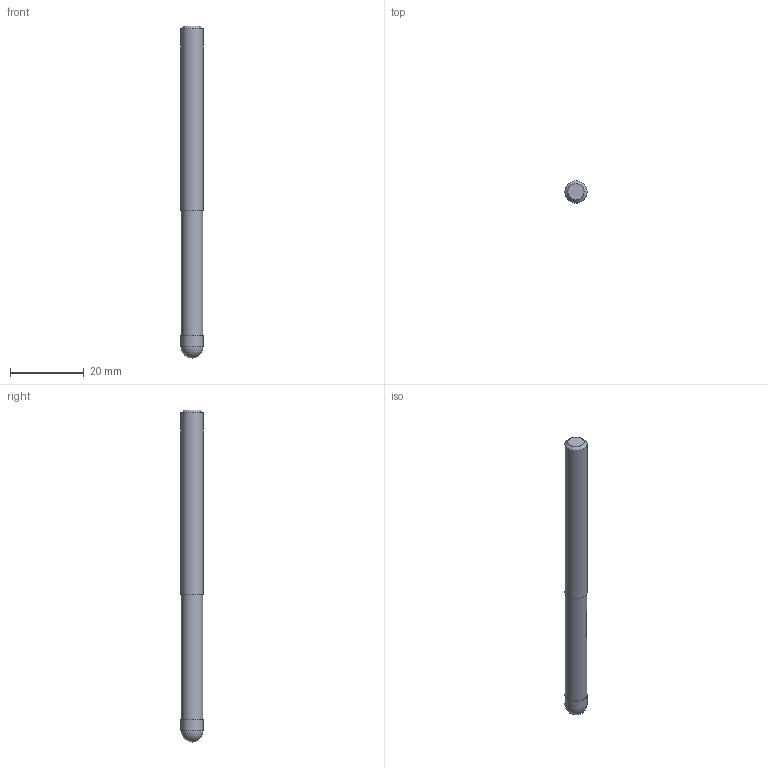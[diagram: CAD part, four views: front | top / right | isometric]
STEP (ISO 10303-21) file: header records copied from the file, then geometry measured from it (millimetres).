
FILE_DESCRIPTION((''),'2;1');
FILE_NAME('C:\Users\nsx150\AppData\Local\Temp\Mastercam 2021\3SYKECWX22\TEMP.step','2021-04-22T10:06:02',(''),(''),'STEP Write','Mastercam 2021 ... CNC Software, Inc.','');
FILE_SCHEMA(('AUTOMOTIVE_DESIGN'));
Length unit declared in the file: millimetre
Products named in the file (1): None
Bounding box: 6 x 6 x 90 mm (x, y, z)
Volume: 2447.9 mm3; surface area: 1750.3 mm2
Topology: 2 solids, 2 shells, 9 faces, 13 edges, 8 vertices
Faces by surface type: plane 4, cylinder 3, sphere 1, cone 1
Full cylindrical faces by diameter (mm): 5.8 x1, 6 x2
Entity records: 211 total; most frequent: DIRECTION 36, CARTESIAN_POINT 25, AXIS2_PLACEMENT_3D 18, ORIENTED_EDGE 14, EDGE_LOOP 14, STYLED_ITEM 12, ADVANCED_FACE 9, FACE_BOUND 8
